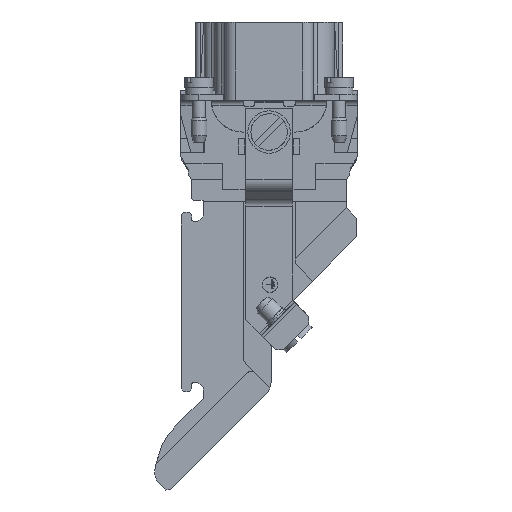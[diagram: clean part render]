
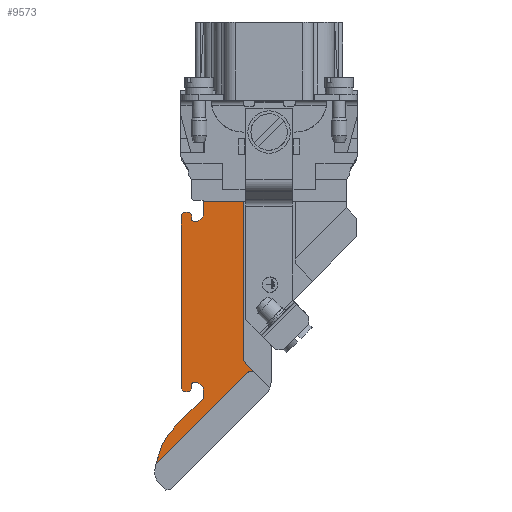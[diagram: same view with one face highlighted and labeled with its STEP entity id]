
A CAD part, left-side view. The second image highlights one B-rep face of the part: STEP entity #9573.
In plain terms, the highlighted planar face has unit normal (-1, 0, 0).
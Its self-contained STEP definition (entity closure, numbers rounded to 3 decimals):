
#8133=FACE_OUTER_BOUND('',#12202,.T.);
#9573=ADVANCED_FACE('',(#8133),#10611,.F.);
#10611=PLANE('',#32593);
#12202=EDGE_LOOP('',(#16406,#16407,#16408,#16409,#16410,#16411,#16412,#16413,
#16414,#16415,#16416,#16417,#16418,#16419,#16420,#16421,#16422,#16423,#16424,
#16425,#16426,#16427,#16428,#16429,#16430));
#16406=ORIENTED_EDGE('',*,*,#23108,.T.);
#16407=ORIENTED_EDGE('',*,*,#21807,.T.);
#16408=ORIENTED_EDGE('',*,*,#23109,.T.);
#16409=ORIENTED_EDGE('',*,*,#23089,.F.);
#16410=ORIENTED_EDGE('',*,*,#23020,.F.);
#16411=ORIENTED_EDGE('',*,*,#23025,.T.);
#16412=ORIENTED_EDGE('',*,*,#21813,.T.);
#16413=ORIENTED_EDGE('',*,*,#23096,.F.);
#16414=ORIENTED_EDGE('',*,*,#23031,.F.);
#16415=ORIENTED_EDGE('',*,*,#23037,.F.);
#16416=ORIENTED_EDGE('',*,*,#23040,.F.);
#16417=ORIENTED_EDGE('',*,*,#23043,.F.);
#16418=ORIENTED_EDGE('',*,*,#23046,.F.);
#16419=ORIENTED_EDGE('',*,*,#23049,.F.);
#16420=ORIENTED_EDGE('',*,*,#23052,.F.);
#16421=ORIENTED_EDGE('',*,*,#23055,.F.);
#16422=ORIENTED_EDGE('',*,*,#23058,.F.);
#16423=ORIENTED_EDGE('',*,*,#23061,.F.);
#16424=ORIENTED_EDGE('',*,*,#23064,.F.);
#16425=ORIENTED_EDGE('',*,*,#23015,.F.);
#16426=ORIENTED_EDGE('',*,*,#23066,.F.);
#16427=ORIENTED_EDGE('',*,*,#23011,.F.);
#16428=ORIENTED_EDGE('',*,*,#23068,.F.);
#16429=ORIENTED_EDGE('',*,*,#23071,.F.);
#16430=ORIENTED_EDGE('',*,*,#23107,.T.);
#19629=VERTEX_POINT('',#41012);
#19630=VERTEX_POINT('',#41014);
#19633=VERTEX_POINT('',#41021);
#19635=VERTEX_POINT('',#41025);
#20381=VERTEX_POINT('',#43775);
#20382=VERTEX_POINT('',#43776);
#20385=VERTEX_POINT('',#43784);
#20386=VERTEX_POINT('',#43785);
#20390=VERTEX_POINT('',#43794);
#20391=VERTEX_POINT('',#43796);
#20398=VERTEX_POINT('',#43817);
#20399=VERTEX_POINT('',#43818);
#20404=VERTEX_POINT('',#43830);
#20406=VERTEX_POINT('',#43836);
#20408=VERTEX_POINT('',#43842);
#20410=VERTEX_POINT('',#43848);
#20412=VERTEX_POINT('',#43854);
#20414=VERTEX_POINT('',#43860);
#20416=VERTEX_POINT('',#43866);
#20418=VERTEX_POINT('',#43872);
#20420=VERTEX_POINT('',#43878);
#20422=VERTEX_POINT('',#43890);
#20424=VERTEX_POINT('',#43896);
#20434=VERTEX_POINT('',#43930);
#20441=VERTEX_POINT('',#43965);
#21807=EDGE_CURVE('',#19630,#19629,#24678,.T.);
#21813=EDGE_CURVE('',#19633,#19635,#25933,.T.);
#23011=EDGE_CURVE('',#20381,#20382,#24898,.T.);
#23015=EDGE_CURVE('',#20385,#20386,#26899,.T.);
#23020=EDGE_CURVE('',#20390,#20391,#24900,.T.);
#23025=EDGE_CURVE('',#20390,#19633,#26907,.T.);
#23031=EDGE_CURVE('',#20398,#20399,#26913,.T.);
#23037=EDGE_CURVE('',#20404,#20398,#26919,.T.);
#23040=EDGE_CURVE('',#20406,#20404,#26922,.T.);
#23043=EDGE_CURVE('',#20408,#20406,#24902,.T.);
#23046=EDGE_CURVE('',#20410,#20408,#26926,.T.);
#23049=EDGE_CURVE('',#20412,#20410,#26929,.T.);
#23052=EDGE_CURVE('',#20414,#20412,#26932,.T.);
#23055=EDGE_CURVE('',#20416,#20414,#26935,.T.);
#23058=EDGE_CURVE('',#20418,#20416,#26938,.T.);
#23061=EDGE_CURVE('',#20420,#20418,#26941,.T.);
#23064=EDGE_CURVE('',#20386,#20420,#26944,.T.);
#23066=EDGE_CURVE('',#20382,#20385,#26946,.T.);
#23068=EDGE_CURVE('',#20422,#20381,#26948,.T.);
#23071=EDGE_CURVE('',#20424,#20422,#26951,.T.);
#23089=EDGE_CURVE('',#20391,#20434,#26969,.T.);
#23096=EDGE_CURVE('',#20399,#19635,#26975,.T.);
#23107=EDGE_CURVE('',#20424,#20441,#26985,.T.);
#23108=EDGE_CURVE('',#20441,#19630,#26986,.T.);
#23109=EDGE_CURVE('',#19629,#20434,#26987,.T.);
#24678=CIRCLE('',#31822,12.);
#24898=CIRCLE('',#32549,0.4);
#24900=CIRCLE('',#32553,1.);
#24902=CIRCLE('',#32561,0.4);
#25933=LINE('',#41026,#28243);
#26899=LINE('',#43783,#29209);
#26907=LINE('',#43804,#29217);
#26913=LINE('',#43816,#29223);
#26919=LINE('',#43829,#29229);
#26922=LINE('',#43835,#29232);
#26926=LINE('',#43847,#29236);
#26929=LINE('',#43853,#29239);
#26932=LINE('',#43859,#29242);
#26935=LINE('',#43865,#29245);
#26938=LINE('',#43871,#29248);
#26941=LINE('',#43877,#29251);
#26944=LINE('',#43883,#29254);
#26946=LINE('',#43886,#29256);
#26948=LINE('',#43889,#29258);
#26951=LINE('',#43895,#29261);
#26969=LINE('',#43929,#29279);
#26975=LINE('',#43942,#29285);
#26985=LINE('',#43966,#29295);
#26986=LINE('',#43968,#29296);
#26987=LINE('',#43969,#29297);
#28243=VECTOR('',#34426,1.);
#29209=VECTOR('',#36846,1.);
#29217=VECTOR('',#36862,1.);
#29223=VECTOR('',#36872,1.);
#29229=VECTOR('',#36880,1.);
#29232=VECTOR('',#36885,1.);
#29236=VECTOR('',#36897,1.);
#29239=VECTOR('',#36902,1.);
#29242=VECTOR('',#36907,1.);
#29245=VECTOR('',#36912,1.);
#29248=VECTOR('',#36917,1.);
#29251=VECTOR('',#36922,1.);
#29254=VECTOR('',#36927,1.);
#29256=VECTOR('',#36931,1.);
#29258=VECTOR('',#36935,1.);
#29261=VECTOR('',#36940,1.);
#29279=VECTOR('',#36970,1.);
#29285=VECTOR('',#36982,1.);
#29295=VECTOR('',#37012,1.);
#29296=VECTOR('',#37015,1.);
#29297=VECTOR('',#37016,1.);
#31822=AXIS2_PLACEMENT_3D('',#41013,#34416,#34417);
#32549=AXIS2_PLACEMENT_3D('',#43774,#36838,#36839);
#32553=AXIS2_PLACEMENT_3D('',#43795,#36853,#36854);
#32561=AXIS2_PLACEMENT_3D('',#43841,#36890,#36891);
#32593=AXIS2_PLACEMENT_3D('',#43970,#37017,#37018);
#34416=DIRECTION('',(-1.,0.,0.));
#34417=DIRECTION('',(0.,1.,0.));
#34426=DIRECTION('',(0.,0.,1.));
#36838=DIRECTION('',(-1.,0.,0.));
#36839=DIRECTION('',(0.,1.,0.));
#36846=DIRECTION('',(0.,0.707,-0.707));
#36853=DIRECTION('',(-1.,0.,0.));
#36854=DIRECTION('',(0.,-0.707,0.707));
#36862=DIRECTION('',(0.,0.707,0.707));
#36872=DIRECTION('',(0.,0.,1.));
#36880=DIRECTION('',(0.,-0.707,0.707));
#36885=DIRECTION('',(0.,-1.,0.));
#36890=DIRECTION('',(-1.,0.,0.));
#36891=DIRECTION('',(0.,1.,0.));
#36897=DIRECTION('',(0.,0.,-1.));
#36902=DIRECTION('',(0.,-0.707,-0.707));
#36907=DIRECTION('',(0.,-1.,0.));
#36912=DIRECTION('',(0.,-0.707,0.707));
#36917=DIRECTION('',(0.,0.,1.));
#36922=DIRECTION('',(0.,0.707,0.707));
#36927=DIRECTION('',(0.,1.,0.));
#36931=DIRECTION('',(0.,0.,-1.));
#36935=DIRECTION('',(0.,1.,0.));
#36940=DIRECTION('',(0.,0.707,0.707));
#36970=DIRECTION('',(0.,0.707,-0.707));
#36982=DIRECTION('',(0.,-1.,0.));
#37012=DIRECTION('',(0.,0.,-1.));
#37015=DIRECTION('',(0.,0.707,-0.707));
#37016=DIRECTION('',(0.,0.259,-0.966));
#37017=DIRECTION('',(1.,0.,0.));
#37018=DIRECTION('',(0.,-1.,0.));
#41012=CARTESIAN_POINT('',(-31.75,21.265,-68.271));
#41013=CARTESIAN_POINT('',(-31.75,9.674,-71.377));
#41014=CARTESIAN_POINT('',(-31.75,18.159,-62.892));
#41021=CARTESIAN_POINT('',(-31.75,4.994,-50.173));
#41025=CARTESIAN_POINT('',(-31.75,4.994,-19.525));
#41026=CARTESIAN_POINT('',(-31.75,4.994,-50.173));
#43774=CARTESIAN_POINT('',(-31.75,14.5,-54.769));
#43775=CARTESIAN_POINT('',(-31.75,14.5,-54.369));
#43776=CARTESIAN_POINT('',(-31.75,14.9,-54.769));
#43783=CARTESIAN_POINT('',(-31.75,-0.095,-40.575));
#43784=CARTESIAN_POINT('',(-31.75,14.9,-55.569));
#43785=CARTESIAN_POINT('',(-31.75,15.4,-56.069));
#43794=CARTESIAN_POINT('',(-31.75,2.742,-52.424));
#43795=CARTESIAN_POINT('',(-31.75,3.45,-53.132));
#43796=CARTESIAN_POINT('',(-31.75,4.157,-52.424));
#43804=CARTESIAN_POINT('',(-31.75,2.742,-52.424));
#43816=CARTESIAN_POINT('',(-31.75,12.7,-18.263));
#43817=CARTESIAN_POINT('',(-31.75,12.7,-22.269));
#43818=CARTESIAN_POINT('',(-31.75,12.7,-19.525));
#43829=CARTESIAN_POINT('',(-31.75,15.455,-25.025));
#43830=CARTESIAN_POINT('',(-31.75,13.7,-23.269));
#43835=CARTESIAN_POINT('',(-31.75,22.216,-23.269));
#43836=CARTESIAN_POINT('',(-31.75,14.5,-23.269));
#43841=CARTESIAN_POINT('',(-31.75,14.5,-22.869));
#43842=CARTESIAN_POINT('',(-31.75,14.9,-22.869));
#43847=CARTESIAN_POINT('',(-31.75,14.9,-18.263));
#43848=CARTESIAN_POINT('',(-31.75,14.9,-22.069));
#43853=CARTESIAN_POINT('',(-31.75,20.461,-16.508));
#43854=CARTESIAN_POINT('',(-31.75,15.4,-21.569));
#43859=CARTESIAN_POINT('',(-31.75,22.216,-21.569));
#43860=CARTESIAN_POINT('',(-31.75,16.4,-21.569));
#43865=CARTESIAN_POINT('',(-31.75,17.655,-22.825));
#43866=CARTESIAN_POINT('',(-31.75,16.9,-22.069));
#43871=CARTESIAN_POINT('',(-31.75,16.9,-18.263));
#43872=CARTESIAN_POINT('',(-31.75,16.9,-55.569));
#43877=CARTESIAN_POINT('',(-31.75,38.211,-34.258));
#43878=CARTESIAN_POINT('',(-31.75,16.4,-56.069));
#43883=CARTESIAN_POINT('',(-31.75,22.216,-56.069));
#43886=CARTESIAN_POINT('',(-31.75,14.9,-18.263));
#43889=CARTESIAN_POINT('',(-31.75,22.216,-54.369));
#43890=CARTESIAN_POINT('',(-31.75,13.7,-54.369));
#43895=CARTESIAN_POINT('',(-31.75,36.011,-32.058));
#43896=CARTESIAN_POINT('',(-31.75,12.7,-55.369));
#43929=CARTESIAN_POINT('',(-31.75,4.157,-52.424));
#43930=CARTESIAN_POINT('',(-31.75,21.727,-69.995));
#43942=CARTESIAN_POINT('',(-31.75,12.694,-19.525));
#43965=CARTESIAN_POINT('',(-31.75,12.7,-57.432));
#43966=CARTESIAN_POINT('',(-31.75,12.7,-55.369));
#43968=CARTESIAN_POINT('',(-31.75,12.7,-57.432));
#43969=CARTESIAN_POINT('',(-31.75,21.265,-68.271));
#43970=CARTESIAN_POINT('',(-31.75,22.216,-18.263));
